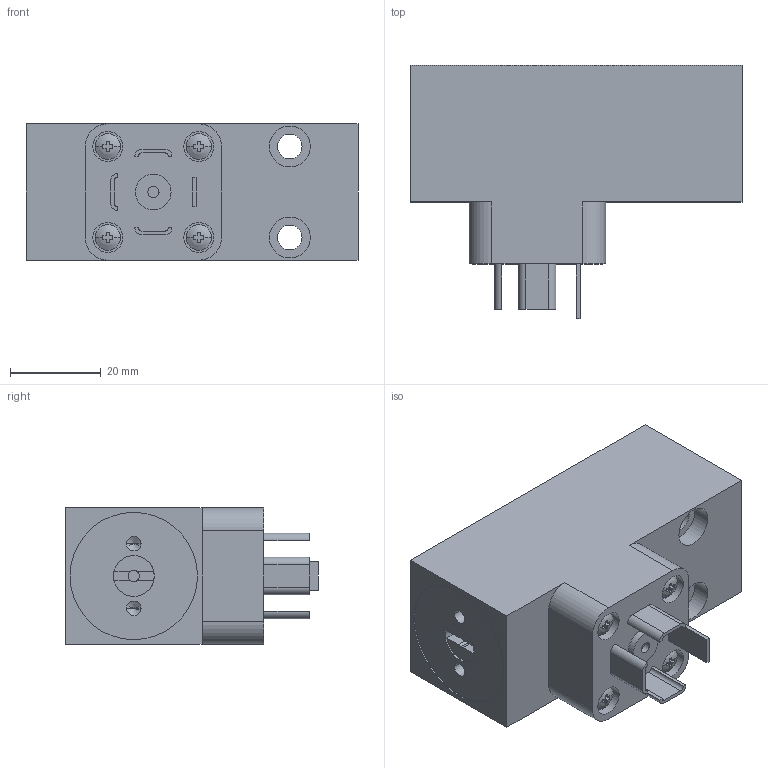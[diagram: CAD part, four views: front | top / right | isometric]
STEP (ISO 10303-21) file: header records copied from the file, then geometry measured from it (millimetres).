
FILE_DESCRIPTION((''),'2;1');
FILE_NAME('R412022752','2020-09-18T17:21:34',('GIO1HC'),(''),'CREO PARAMETRIC BY PTC INC, 2018190','CREO PARAMETRIC BY PTC INC, 2018190','');
FILE_SCHEMA(('AUTOMOTIVE_DESIGN { 1 0 10303 214 1 1 1 1 }'));
Length unit declared in the file: millimetre
Products named in the file (1): R412022752
Bounding box: 73 x 55.6 x 30 mm (x, y, z)
Volume: 74118.8 mm3; surface area: 15004.5 mm2
Topology: 1 solids, 1 shells, 180 faces, 460 edges, 300 vertices
Faces by surface type: plane 106, cylinder 60, sphere 8, cone 6
Entity records: 5665 total; most frequent: DIRECTION 1032, CARTESIAN_POINT 949, ORIENTED_EDGE 912, EDGE_CURVE 456, AXIS2_PLACEMENT_3D 385, VERTEX_POINT 300, VECTOR 262, LINE 262
